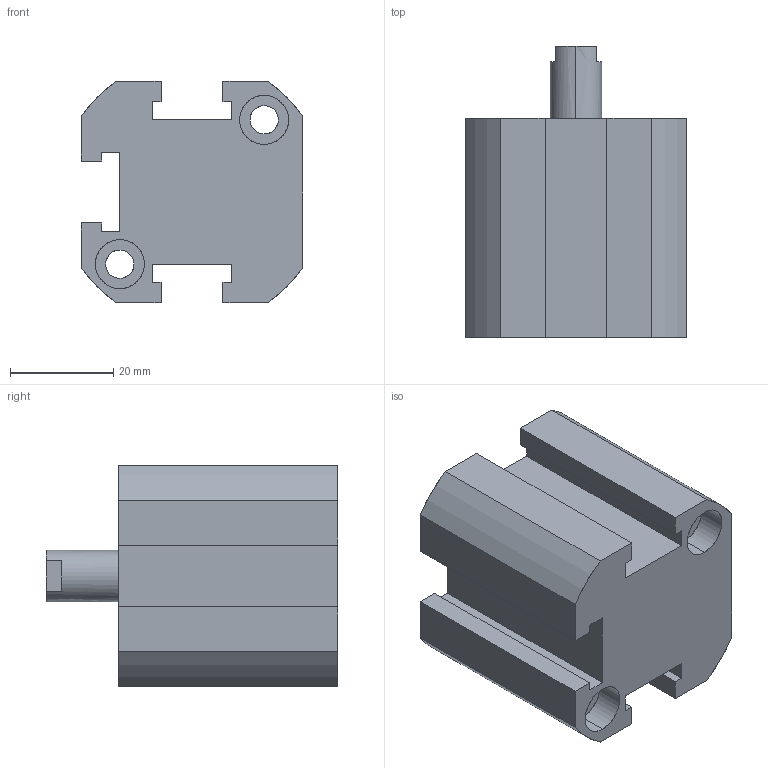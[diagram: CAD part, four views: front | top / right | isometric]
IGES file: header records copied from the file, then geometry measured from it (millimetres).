
Start section: SolidWorks IGES file using analytic representation for surfaces
Global section: file name: C:\Users\Toshiba\Desktop\XG#0-25D-10.IGS; native system: SolidWorks 2014; preprocessor: SolidWorks 2014; author: Toshiba; date: 160524.093618; units: millimetre
Bounding box: 43 x 56.5 x 43 mm (x, y, z)
Surface area: 15089.2 mm2 (no closed solid volume)
Topology: 0 solids, 0 shells, 88 faces, 1258 edges, 1254 vertices
Faces by surface type: revolution 44, bspline 44
